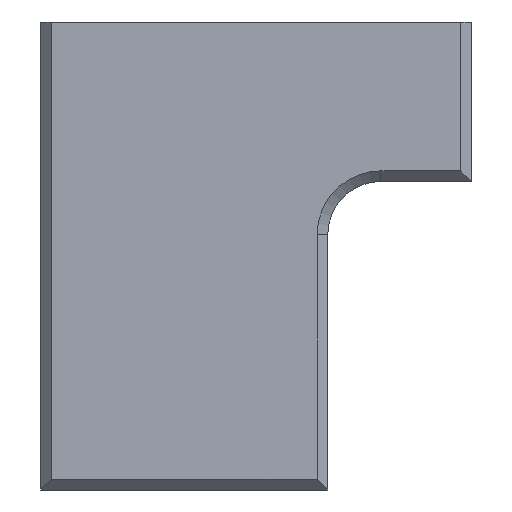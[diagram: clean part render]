
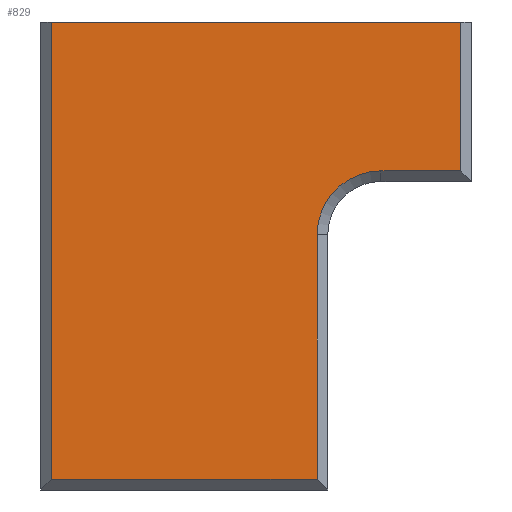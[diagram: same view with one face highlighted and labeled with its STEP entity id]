
A CAD part, front view. The second image highlights one B-rep face of the part: STEP entity #829.
In plain terms, the highlighted planar face has unit normal (0, -1, 0).
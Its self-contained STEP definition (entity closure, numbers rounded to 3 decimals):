
#33 = VERTEX_POINT ( 'NONE', #993 ) ;
#68 = ORIENTED_EDGE ( 'NONE', *, *, #221, .T. ) ;
#96 = CARTESIAN_POINT ( 'NONE',  ( 26., -4.25, 44. ) ) ;
#98 = VECTOR ( 'NONE', #372, 1000. ) ;
#110 = PLANE ( 'NONE',  #1174 ) ;
#132 = DIRECTION ( 'NONE',  ( 1., 0., 0. ) ) ;
#174 = VECTOR ( 'NONE', #1308, 1000. ) ;
#184 = VECTOR ( 'NONE', #425, 1000. ) ;
#216 = CARTESIAN_POINT ( 'NONE',  ( 26., -4.25, 30. ) ) ;
#218 = VERTEX_POINT ( 'NONE', #256 ) ;
#221 = EDGE_CURVE ( 'NONE', #803, #33, #500, .T. ) ;
#225 = ORIENTED_EDGE ( 'NONE', *, *, #722, .T. ) ;
#256 = CARTESIAN_POINT ( 'NONE',  ( 26., -4.25, 44. ) ) ;
#261 = DIRECTION ( 'NONE',  ( 0., 1., 0. ) ) ;
#290 = EDGE_CURVE ( 'NONE', #33, #392, #1245, .T. ) ;
#355 = VECTOR ( 'NONE', #132, 1000. ) ;
#372 = DIRECTION ( 'NONE',  ( 1., 0., 0. ) ) ;
#380 = ORIENTED_EDGE ( 'NONE', *, *, #290, .T. ) ;
#392 = VERTEX_POINT ( 'NONE', #920 ) ;
#405 = FACE_OUTER_BOUND ( 'NONE', #1408, .T. ) ;
#420 = CARTESIAN_POINT ( 'NONE',  ( 12.5, -4.25, 44. ) ) ;
#425 = DIRECTION ( 'NONE',  ( 0., 0., 1. ) ) ;
#433 = CARTESIAN_POINT ( 'NONE',  ( -12.5, -4.25, 44. ) ) ;
#438 = DIRECTION ( 'NONE',  ( 0., 1., 0. ) ) ;
#490 = VERTEX_POINT ( 'NONE', #539 ) ;
#493 = CARTESIAN_POINT ( 'NONE',  ( -12.5, -4.25, 44. ) ) ;
#500 = LINE ( 'NONE', #493, #174 ) ;
#510 = ORIENTED_EDGE ( 'NONE', *, *, #1024, .T. ) ;
#531 = CARTESIAN_POINT ( 'NONE',  ( 18.5, -4.25, 30. ) ) ;
#539 = CARTESIAN_POINT ( 'NONE',  ( 12.5, -4.25, 24. ) ) ;
#546 = LINE ( 'NONE', #420, #864 ) ;
#618 = CIRCLE ( 'NONE', #818, 6. ) ;
#653 = CARTESIAN_POINT ( 'NONE',  ( -13.5, -4.25, 30. ) ) ;
#722 = EDGE_CURVE ( 'NONE', #392, #490, #546, .T. ) ;
#765 = EDGE_CURVE ( 'NONE', #1099, #218, #1039, .T. ) ;
#789 = CARTESIAN_POINT ( 'NONE',  ( -13.5, -4.25, 44. ) ) ;
#803 = VERTEX_POINT ( 'NONE', #433 ) ;
#818 = AXIS2_PLACEMENT_3D ( 'NONE', #907, #261, #1007 ) ;
#829 = ADVANCED_FACE ( 'NONE', ( #405 ), #110, .F. ) ;
#864 = VECTOR ( 'NONE', #1177, 1000. ) ;
#875 = VECTOR ( 'NONE', #1381, 1000. ) ;
#907 = CARTESIAN_POINT ( 'NONE',  ( 18.5, -4.25, 24. ) ) ;
#920 = CARTESIAN_POINT ( 'NONE',  ( 12.5, -4.25, 1. ) ) ;
#974 = ORIENTED_EDGE ( 'NONE', *, *, #1221, .T. ) ;
#976 = CARTESIAN_POINT ( 'NONE',  ( -13.5, -4.25, 44. ) ) ;
#985 = LINE ( 'NONE', #789, #355 ) ;
#993 = CARTESIAN_POINT ( 'NONE',  ( -12.5, -4.25, 1. ) ) ;
#1007 = DIRECTION ( 'NONE',  ( 0., 0., 1. ) ) ;
#1024 = EDGE_CURVE ( 'NONE', #1026, #1099, #1411, .T. ) ;
#1026 = VERTEX_POINT ( 'NONE', #531 ) ;
#1039 = LINE ( 'NONE', #96, #184 ) ;
#1099 = VERTEX_POINT ( 'NONE', #216 ) ;
#1114 = CARTESIAN_POINT ( 'NONE',  ( -13.5, -4.25, 1. ) ) ;
#1174 = AXIS2_PLACEMENT_3D ( 'NONE', #976, #438, #1189 ) ;
#1177 = DIRECTION ( 'NONE',  ( 0., 0., 1. ) ) ;
#1182 = EDGE_CURVE ( 'NONE', #803, #218, #985, .T. ) ;
#1189 = DIRECTION ( 'NONE',  ( 0., 0., 1. ) ) ;
#1221 = EDGE_CURVE ( 'NONE', #490, #1026, #618, .T. ) ;
#1242 = ORIENTED_EDGE ( 'NONE', *, *, #1182, .F. ) ;
#1245 = LINE ( 'NONE', #1114, #98 ) ;
#1308 = DIRECTION ( 'NONE',  ( 0., 0., -1. ) ) ;
#1335 = ORIENTED_EDGE ( 'NONE', *, *, #765, .T. ) ;
#1381 = DIRECTION ( 'NONE',  ( 1., 0., 0. ) ) ;
#1408 = EDGE_LOOP ( 'NONE', ( #510, #1335, #1242, #68, #380, #225, #974 ) ) ;
#1411 = LINE ( 'NONE', #653, #875 ) ;
